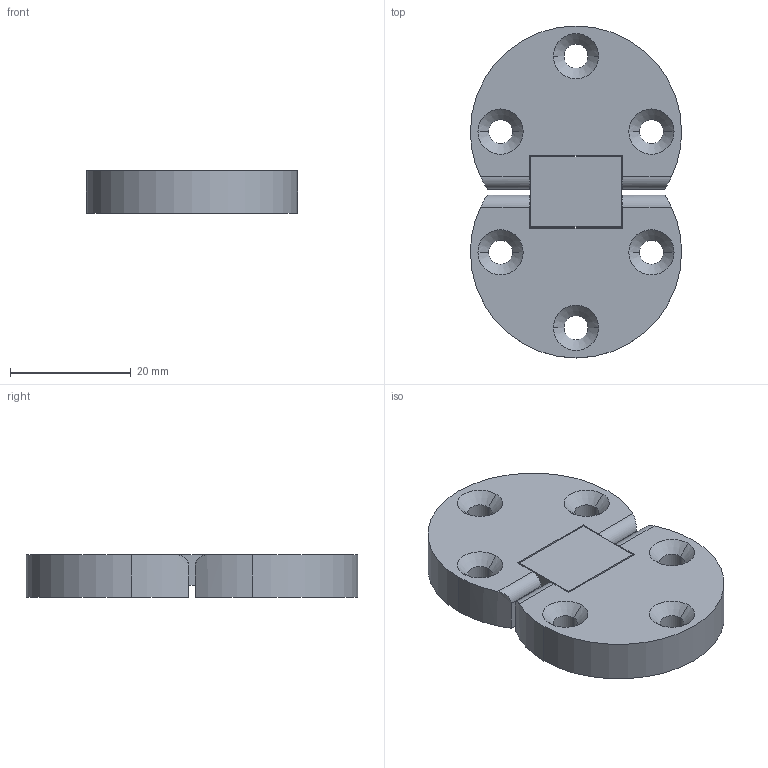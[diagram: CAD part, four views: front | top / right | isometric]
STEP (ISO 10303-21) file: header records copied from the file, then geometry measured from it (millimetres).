
FILE_DESCRIPTION (( 'STEP AP203' ), '1' );
FILE_NAME ('Závìs na rozkládací stoly_10902.STEP', '2022-11-28T09:36:23', ( '' ), ( '' ), 'SwSTEP 2.0', 'SolidWorks 2019', '' );
FILE_SCHEMA (( 'CONFIG_CONTROL_DESIGN' ));
Length unit declared in the file: millimetre
Products named in the file (1): Závìs na rozkládací stoly_10902
Bounding box: 35 x 55 x 7 mm (x, y, z)
Volume: 10132.1 mm3; surface area: 5370.1 mm2
Topology: 3 solids, 3 shells, 54 faces, 132 edges, 84 vertices
Faces by surface type: cylinder 22, plane 20, cone 12
Entity records: 1729 total; most frequent: CARTESIAN_POINT 319, DIRECTION 290, ORIENTED_EDGE 264, EDGE_CURVE 132, AXIS2_PLACEMENT_3D 107, VERTEX_POINT 84, VECTOR 76, LINE 76
